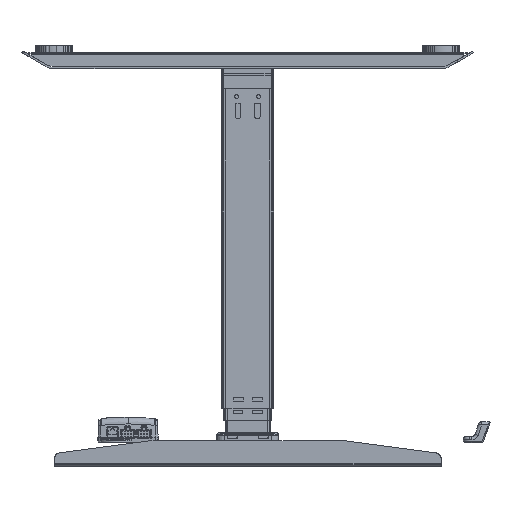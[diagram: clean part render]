
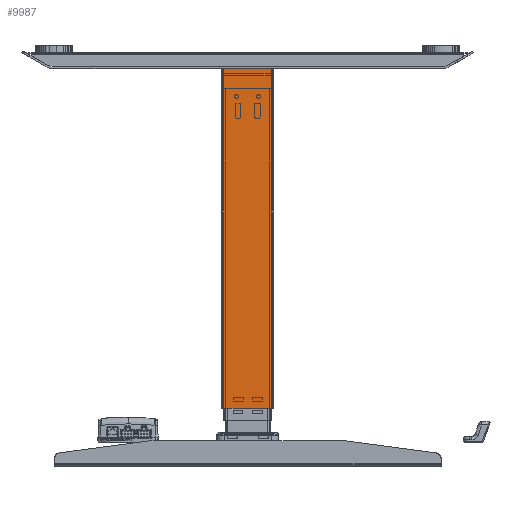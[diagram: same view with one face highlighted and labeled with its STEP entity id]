
A CAD part, front view. The second image highlights one B-rep face of the part: STEP entity #9987.
In plain terms, the highlighted planar face has unit normal (0, -1, 0).
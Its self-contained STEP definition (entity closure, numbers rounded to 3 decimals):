
#9935=CARTESIAN_POINT('Vertex',(-37.,-25.,-263.)) ;
#9938=CARTESIAN_POINT('Line Origine',(-37.,-25.,0.)) ;
#9942=CARTESIAN_POINT('Vertex',(-37.,-25.,263.)) ;
#9957=CARTESIAN_POINT('Axis2P3D Location',(37.,-25.,0.)) ;
#9962=CARTESIAN_POINT('Line Origine',(0.,-25.,263.)) ;
#9966=CARTESIAN_POINT('Vertex',(37.,-25.,263.)) ;
#9969=CARTESIAN_POINT('Line Origine',(0.,-25.,-263.)) ;
#9973=CARTESIAN_POINT('Vertex',(37.,-25.,-263.)) ;
#9976=CARTESIAN_POINT('Line Origine',(37.,-25.,0.)) ;
#9939=DIRECTION('Vector Direction',(0.,0.,1.)) ;
#9958=DIRECTION('Axis2P3D Direction',(0.,1.,-0.)) ;
#9959=DIRECTION('Axis2P3D XDirection',(-1.,0.,0.)) ;
#9963=DIRECTION('Vector Direction',(-1.,0.,0.)) ;
#9970=DIRECTION('Vector Direction',(-1.,0.,0.)) ;
#9977=DIRECTION('Vector Direction',(0.,0.,1.)) ;
#9960=AXIS2_PLACEMENT_3D('Plane Axis2P3D',#9957,#9958,#9959) ;
#9982=ORIENTED_EDGE('',*,*,#9968,.T.) ;
#9983=ORIENTED_EDGE('',*,*,#9944,.F.) ;
#9984=ORIENTED_EDGE('',*,*,#9975,.F.) ;
#9985=ORIENTED_EDGE('',*,*,#9980,.T.) ;
#9940=VECTOR('Line Direction',#9939,1.) ;
#9964=VECTOR('Line Direction',#9963,1.) ;
#9971=VECTOR('Line Direction',#9970,1.) ;
#9978=VECTOR('Line Direction',#9977,1.) ;
#9987=ADVANCED_FACE('\X2\96F64EF651E04F554F53\X0\',(#9986),#9961,.F.) ;
#9944=EDGE_CURVE('',#9936,#9943,#9941,.T.) ;
#9968=EDGE_CURVE('',#9967,#9943,#9965,.T.) ;
#9975=EDGE_CURVE('',#9974,#9936,#9972,.T.) ;
#9980=EDGE_CURVE('',#9974,#9967,#9979,.T.) ;
#9981=EDGE_LOOP('',(#9982,#9983,#9984,#9985)) ;
#9986=FACE_OUTER_BOUND('',#9981,.T.) ;
#9941=LINE('Line',#9938,#9940) ;
#9965=LINE('Line',#9962,#9964) ;
#9972=LINE('Line',#9969,#9971) ;
#9979=LINE('Line',#9976,#9978) ;
#9961=PLANE('',#9960) ;
#9936=VERTEX_POINT('',#9935) ;
#9943=VERTEX_POINT('',#9942) ;
#9967=VERTEX_POINT('',#9966) ;
#9974=VERTEX_POINT('',#9973) ;
